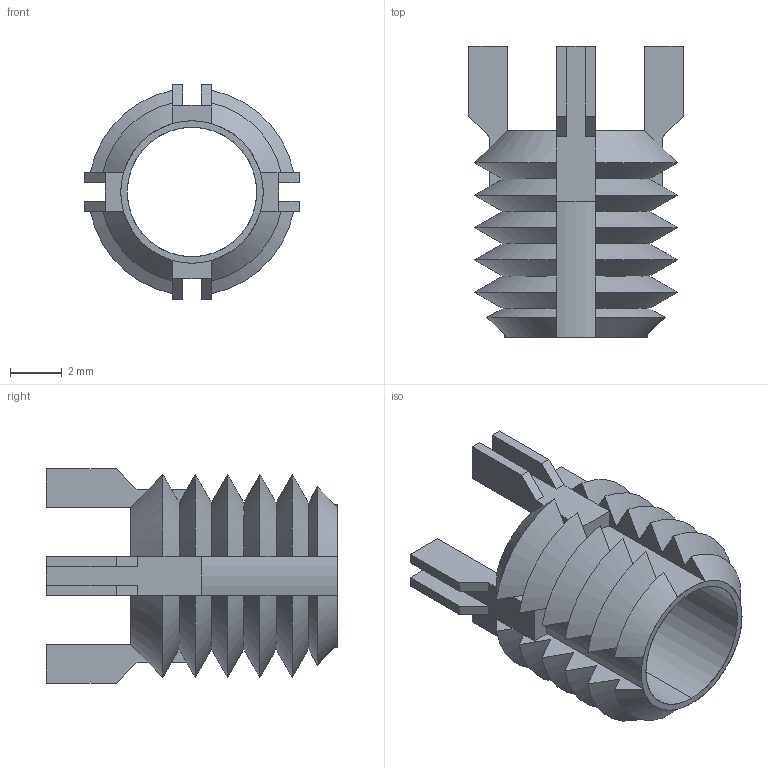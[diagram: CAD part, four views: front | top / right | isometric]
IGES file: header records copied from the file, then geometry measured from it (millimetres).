
Start section: SolidWorks IGES file using analytic representation for surfaces
Global section: file name: C:\Users\IanO\Desktop\22004_v2\TR1520_v2_20230331_IGES\TR1520.65951.igs; native system: SolidWorks 2019; preprocessor: SolidWorks 2019; author: IanO; date: 230331.094802; units: millimetre
Bounding box: 8.29 x 11.25 x 8.29 mm (x, y, z)
Surface area: 552.5 mm2 (no closed solid volume)
Topology: 0 solids, 0 shells, 128 faces, 768 edges, 768 vertices
Faces by surface type: bspline 74, revolution 54
